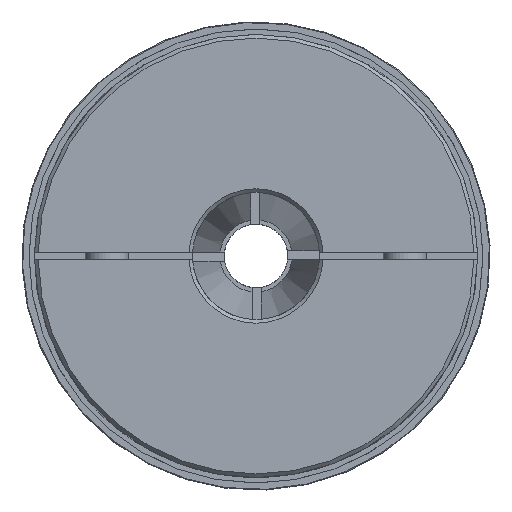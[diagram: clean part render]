
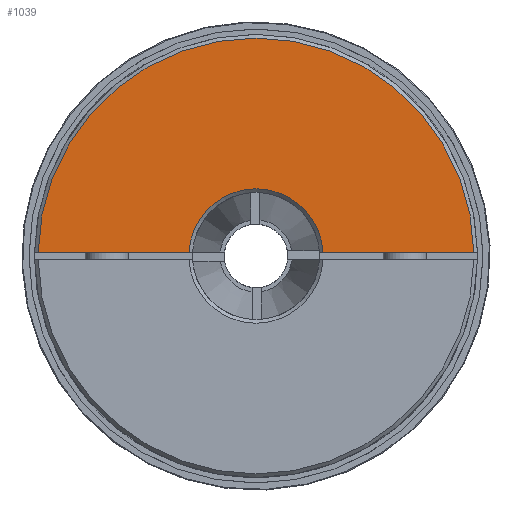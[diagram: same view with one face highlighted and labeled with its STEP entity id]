
A CAD part, left-side view. The second image highlights one B-rep face of the part: STEP entity #1039.
In plain terms, the highlighted planar face has unit normal (-1, 0, 0) as drawn and (0, -1, 0) by its records, which use the part's own axes.
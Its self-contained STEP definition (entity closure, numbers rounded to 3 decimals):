
#1039 = ADVANCED_FACE( '', ( #1876 ), #1877, .F. );
#1876 = FACE_OUTER_BOUND( '', #2694, .T. );
#1877 = PLANE( '', #2695 );
#2694 = EDGE_LOOP( '', ( #3939, #3940, #3941, #3942 ) );
#2695 = AXIS2_PLACEMENT_3D( '', #3943, #3944, #3945 );
#3939 = ORIENTED_EDGE( '', *, *, #4407, .T. );
#3940 = ORIENTED_EDGE( '', *, *, #4571, .T. );
#3941 = ORIENTED_EDGE( '', *, *, #4420, .T. );
#3942 = ORIENTED_EDGE( '', *, *, #4553, .T. );
#3943 = CARTESIAN_POINT( '', ( 0., -52., 0. ) );
#3944 = DIRECTION( '', ( 0., 1., 0. ) );
#3945 = DIRECTION( '', ( 0., 0., 1. ) );
#4407 = EDGE_CURVE( '', #5424, #5422, #5425, .T. );
#4420 = EDGE_CURVE( '', #5445, #5446, #5447, .T. );
#4553 = EDGE_CURVE( '', #5446, #5424, #5660, .F. );
#4571 = EDGE_CURVE( '', #5422, #5445, #5684, .T. );
#5422 = VERTEX_POINT( '', #6176 );
#5424 = VERTEX_POINT( '', #6181 );
#5425 = LINE( '', #6182, #6183 );
#5445 = VERTEX_POINT( '', #6208 );
#5446 = VERTEX_POINT( '', #6209 );
#5447 = LINE( '', #6210, #6211 );
#5660 = CIRCLE( '', #6610, 60. );
#5684 = CIRCLE( '', #6641, 18.5 );
#6176 = CARTESIAN_POINT( '', ( -18.473, -52., 1. ) );
#6181 = CARTESIAN_POINT( '', ( -59.992, -52., 1. ) );
#6182 = CARTESIAN_POINT( '', ( 0., -52., 1. ) );
#6183 = VECTOR( '', #7984, 1000. );
#6208 = CARTESIAN_POINT( '', ( 18.473, -52., 1. ) );
#6209 = CARTESIAN_POINT( '', ( 59.992, -52., 1. ) );
#6210 = CARTESIAN_POINT( '', ( 0., -52., 1. ) );
#6211 = VECTOR( '', #8002, 1000. );
#6610 = AXIS2_PLACEMENT_3D( '', #8210, #8211, #8212 );
#6641 = AXIS2_PLACEMENT_3D( '', #8240, #8241, #8242 );
#7984 = DIRECTION( '', ( 1., 0., 0. ) );
#8002 = DIRECTION( '', ( 1., 0., 0. ) );
#8210 = CARTESIAN_POINT( '', ( 0., -52., 0. ) );
#8211 = DIRECTION( '', ( 0., 1., 0. ) );
#8212 = DIRECTION( '', ( 0., 0., 1. ) );
#8240 = CARTESIAN_POINT( '', ( 0., -52., 0. ) );
#8241 = DIRECTION( '', ( 0., 1., 0. ) );
#8242 = DIRECTION( '', ( 0., 0., 1. ) );
